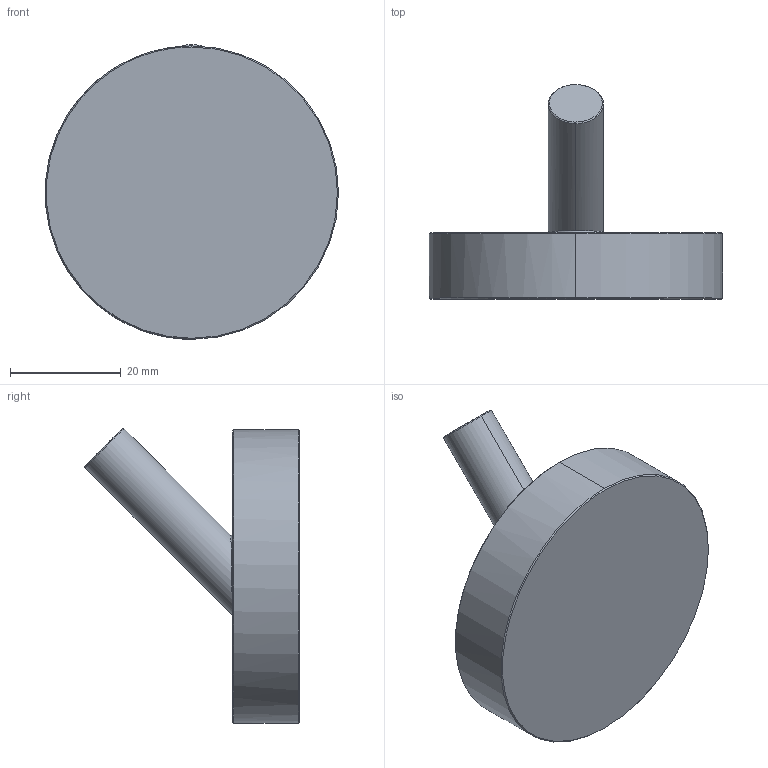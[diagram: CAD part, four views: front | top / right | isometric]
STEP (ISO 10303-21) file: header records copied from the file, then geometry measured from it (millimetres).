
FILE_DESCRIPTION(('THIS FILE CONTAINS SOME STEP INSTANCES'),'1');
FILE_NAME('HAR 001-light.stp','2015-10-23T15:09:42',('UNDEFINED'),('UNDEFINED'),'T-FLEX CAD STEP converter','T-FLEX CAD','');
FILE_SCHEMA(('CONFIG_CONTROL_DESIGN'));
Length unit declared in the file: metre
Products named in the file (1): har_001
Bounding box: 52.92 x 38.73 x 53.23 mm (x, y, z)
Volume: 29061.9 mm3; surface area: 7364.9 mm2
Topology: 1 solids, 1 shells, 15 faces, 28 edges, 16 vertices
Faces by surface type: cone 6, cylinder 4, plane 3, bspline 2
Entity records: 1169 total; most frequent: CARTESIAN_POINT 905, ORIENTED_EDGE 56, DIRECTION 40, EDGE_CURVE 28, EDGE_LOOP 16, VERTEX_POINT 16, ADVANCED_FACE 15, AXIS2_PLACEMENT_3D 15
